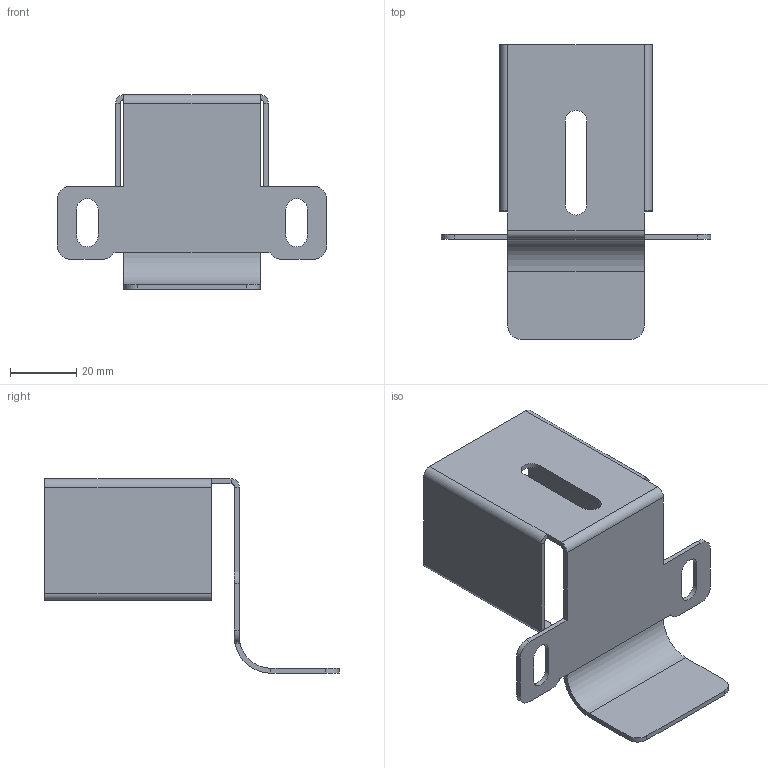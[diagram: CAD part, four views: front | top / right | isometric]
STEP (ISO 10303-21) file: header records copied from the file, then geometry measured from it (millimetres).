
FILE_DESCRIPTION (( 'STEP AP203' ), '1' );
FILE_NAME ('800.029.149.STEP', '2018-03-12T08:47:22', ( '' ), ( '' ), 'SwSTEP 2.0', 'SolidWorks 2016', '' );
FILE_SCHEMA (( 'CONFIG_CONTROL_DESIGN' ));
Length unit declared in the file: millimetre
Products named in the file (1): 800.029.149
Bounding box: 81 x 88.5 x 58.5 mm (x, y, z)
Volume: 15374.2 mm3; surface area: 21606.7 mm2
Topology: 1 solids, 1 shells, 90 faces, 216 edges, 128 vertices
Faces by surface type: plane 58, cylinder 32
Entity records: 2649 total; most frequent: DIRECTION 462, CARTESIAN_POINT 435, ORIENTED_EDGE 432, EDGE_CURVE 216, AXIS2_PLACEMENT_3D 155, VECTOR 152, LINE 152, VERTEX_POINT 128
